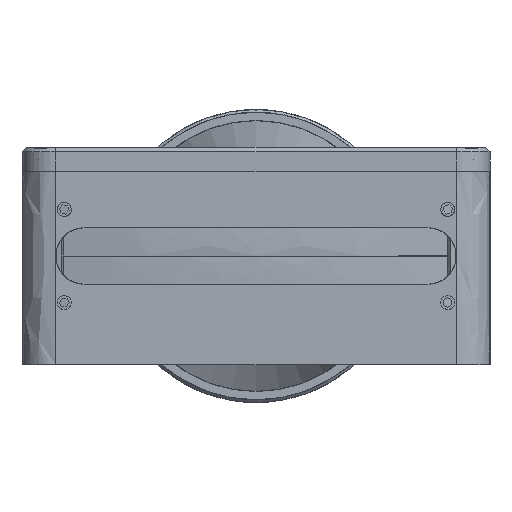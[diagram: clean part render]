
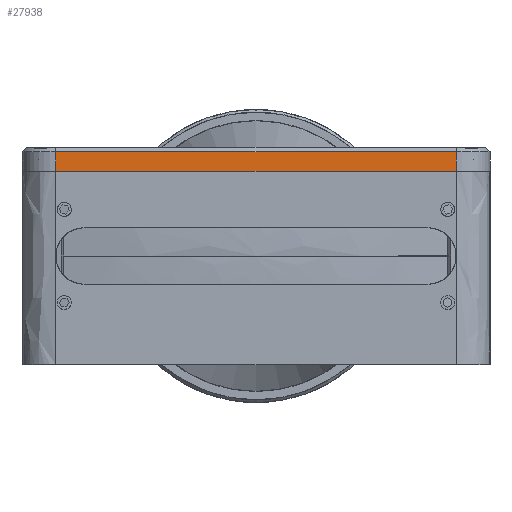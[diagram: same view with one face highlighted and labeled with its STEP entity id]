
A CAD part, front view. The second image highlights one B-rep face of the part: STEP entity #27938.
In plain terms, the highlighted free-form (B-spline) face has degree [1, 1] with [2, 2] control points.
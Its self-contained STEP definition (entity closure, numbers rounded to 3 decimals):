
#27938 = ADVANCED_FACE('',(#27939),#27953,.T.);
#27939 = FACE_BOUND('',#27940,.T.);
#27940 = EDGE_LOOP('',(#27941,#27963,#27978,#27993));
#27941 = ORIENTED_EDGE('',*,*,#27942,.T.);
#27942 = EDGE_CURVE('',#27943,#27945,#27947,.T.);
#27943 = VERTEX_POINT('',#27944);
#27944 = CARTESIAN_POINT('',(35.5,-175.095,15.));
#27945 = VERTEX_POINT('',#27946);
#27946 = CARTESIAN_POINT('',(-35.5,-175.095,15.));
#27947 = SURFACE_CURVE('',#27948,(#27952),.PCURVE_S1.);
#27948 = LINE('',#27949,#27950);
#27949 = CARTESIAN_POINT('',(35.5,-175.095,15.));
#27950 = VECTOR('',#27951,1.);
#27951 = DIRECTION('',(-1.,0.,0.));
#27952 = PCURVE('',#27953,#27958);
#27953 = B_SPLINE_SURFACE_WITH_KNOTS('',1,1,(
    (#27954,#27955)
    ,(#27956,#27957
    )),.UNSPECIFIED.,.F.,.F.,.F.,(2,2),(2,2),(0.,1.),(0.,1.),
  .PIECEWISE_BEZIER_KNOTS.);
#27954 = CARTESIAN_POINT('',(-35.5,-175.095,15.));
#27955 = CARTESIAN_POINT('',(35.5,-175.095,15.));
#27956 = CARTESIAN_POINT('',(-35.5,-175.095,18.5));
#27957 = CARTESIAN_POINT('',(35.5,-175.095,18.5));
#27958 = DEFINITIONAL_REPRESENTATION('',(#27959),#27962);
#27959 = B_SPLINE_CURVE_WITH_KNOTS('',1,(#27960,#27961),.UNSPECIFIED.,
  .F.,.F.,(2,2),(0.,71.),.PIECEWISE_BEZIER_KNOTS.);
#27960 = CARTESIAN_POINT('',(0.,1.));
#27961 = CARTESIAN_POINT('',(0.,0.));
#27962 = ( GEOMETRIC_REPRESENTATION_CONTEXT(2) 
PARAMETRIC_REPRESENTATION_CONTEXT() REPRESENTATION_CONTEXT('',''
  ) );
#27963 = ORIENTED_EDGE('',*,*,#27964,.T.);
#27964 = EDGE_CURVE('',#27945,#27965,#27967,.T.);
#27965 = VERTEX_POINT('',#27966);
#27966 = CARTESIAN_POINT('',(-35.5,-175.095,18.5));
#27967 = SURFACE_CURVE('',#27968,(#27972),.PCURVE_S1.);
#27968 = LINE('',#27969,#27970);
#27969 = CARTESIAN_POINT('',(-35.5,-175.095,15.));
#27970 = VECTOR('',#27971,1.);
#27971 = DIRECTION('',(0.,0.,1.));
#27972 = PCURVE('',#27953,#27973);
#27973 = DEFINITIONAL_REPRESENTATION('',(#27974),#27977);
#27974 = B_SPLINE_CURVE_WITH_KNOTS('',1,(#27975,#27976),.UNSPECIFIED.,
  .F.,.F.,(2,2),(0.,3.5),.PIECEWISE_BEZIER_KNOTS.);
#27975 = CARTESIAN_POINT('',(0.,0.));
#27976 = CARTESIAN_POINT('',(1.,0.));
#27977 = ( GEOMETRIC_REPRESENTATION_CONTEXT(2) 
PARAMETRIC_REPRESENTATION_CONTEXT() REPRESENTATION_CONTEXT('',''
  ) );
#27978 = ORIENTED_EDGE('',*,*,#27979,.T.);
#27979 = EDGE_CURVE('',#27965,#27980,#27982,.T.);
#27980 = VERTEX_POINT('',#27981);
#27981 = CARTESIAN_POINT('',(35.5,-175.095,18.5));
#27982 = SURFACE_CURVE('',#27983,(#27987),.PCURVE_S1.);
#27983 = LINE('',#27984,#27985);
#27984 = CARTESIAN_POINT('',(-35.5,-175.095,18.5));
#27985 = VECTOR('',#27986,1.);
#27986 = DIRECTION('',(1.,0.,0.));
#27987 = PCURVE('',#27953,#27988);
#27988 = DEFINITIONAL_REPRESENTATION('',(#27989),#27992);
#27989 = B_SPLINE_CURVE_WITH_KNOTS('',1,(#27990,#27991),.UNSPECIFIED.,
  .F.,.F.,(2,2),(0.,71.),.PIECEWISE_BEZIER_KNOTS.);
#27990 = CARTESIAN_POINT('',(1.,0.));
#27991 = CARTESIAN_POINT('',(1.,1.));
#27992 = ( GEOMETRIC_REPRESENTATION_CONTEXT(2) 
PARAMETRIC_REPRESENTATION_CONTEXT() REPRESENTATION_CONTEXT('',''
  ) );
#27993 = ORIENTED_EDGE('',*,*,#27994,.T.);
#27994 = EDGE_CURVE('',#27980,#27943,#27995,.T.);
#27995 = SURFACE_CURVE('',#27996,(#28000),.PCURVE_S1.);
#27996 = LINE('',#27997,#27998);
#27997 = CARTESIAN_POINT('',(35.5,-175.095,18.5));
#27998 = VECTOR('',#27999,1.);
#27999 = DIRECTION('',(0.,0.,-1.));
#28000 = PCURVE('',#27953,#28001);
#28001 = DEFINITIONAL_REPRESENTATION('',(#28002),#28005);
#28002 = B_SPLINE_CURVE_WITH_KNOTS('',1,(#28003,#28004),.UNSPECIFIED.,
  .F.,.F.,(2,2),(0.,3.5),.PIECEWISE_BEZIER_KNOTS.);
#28003 = CARTESIAN_POINT('',(1.,1.));
#28004 = CARTESIAN_POINT('',(0.,1.));
#28005 = ( GEOMETRIC_REPRESENTATION_CONTEXT(2) 
PARAMETRIC_REPRESENTATION_CONTEXT() REPRESENTATION_CONTEXT('',''
  ) );
